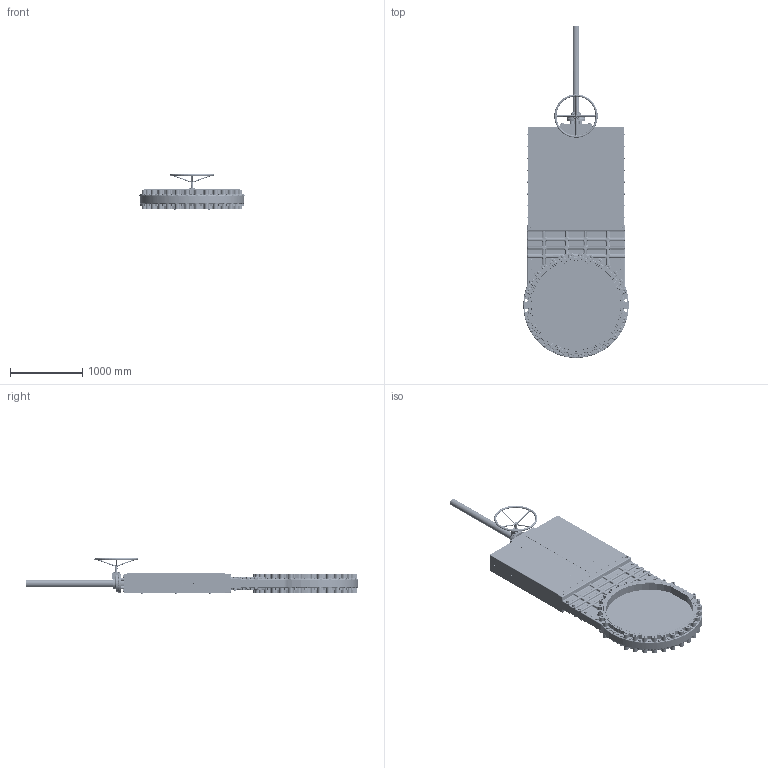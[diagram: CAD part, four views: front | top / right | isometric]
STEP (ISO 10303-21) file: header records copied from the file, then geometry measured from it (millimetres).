
FILE_DESCRIPTION(/* description */ (''),/* implementation_level */ '2;1');
FILE_NAME(/* name */ '明杆刀阀带齿轮箱DN1200简图.stp',/* time_stamp */ '2025-12-22T18:11:02+08:00',/* author */ (''),/* organization */ (''),/* preprocessor_version */ 'ST-DEVELOPER v15',/* originating_system */ 'SIEMENS PLM Software NX 10.0',/* authorisation */ '');
FILE_SCHEMA (('AP203_CONFIGURATION_CONTROLLED_3D_DESIGN_OF_MECHANICAL_PARTS_AND_ASSEMBLIES_MIM_LF { 1 0 10303 403 2 1 2}'));
Products named in the file (1): 4D14B8F2lxvw
Bounding box: 1454.68 x 4586.39 x 496.9 mm (x, y, z)
Volume: 315414921 mm3; surface area: 23784479.7 mm2
Topology: 1 solids, 64 shells, 5829 faces, 13416 edges, 8383 vertices
Faces by surface type: plane 2487, cylinder 1868, cone 693, bspline 486, torus 266, sphere 28, extrusion 1
Full cylindrical faces by diameter (mm): 2.4 x4, 6.24 x1, 7.323 x16, 8 x32, 8.4 x16, 9.188 x12, 10 x24, 10.5 x12, 11.4 x16, 13 x6, 15 x4, 15.4 x12, 15.5 x28, 16 x72, 17 x28, 18 x28, 20 x17, 22 x41, 22.863 x4, 24 x6, 25.2 x4, 26 x4, 27 x86, 27.6 x2, 28 x66, 29 x49, 30 x35, 32 x56, 32.4 x4, 40 x3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
Entity records: 195512 total; most frequent: CARTESIAN_POINT 52457, DIRECTION 25462, ORIENTED_EDGE 22932, EDGE_CURVE 11466, AXIS2_PLACEMENT_3D 10728, EDGE_LOOP 8063, VERTEX_POINT 7840, ADVANCED_FACE 5829
